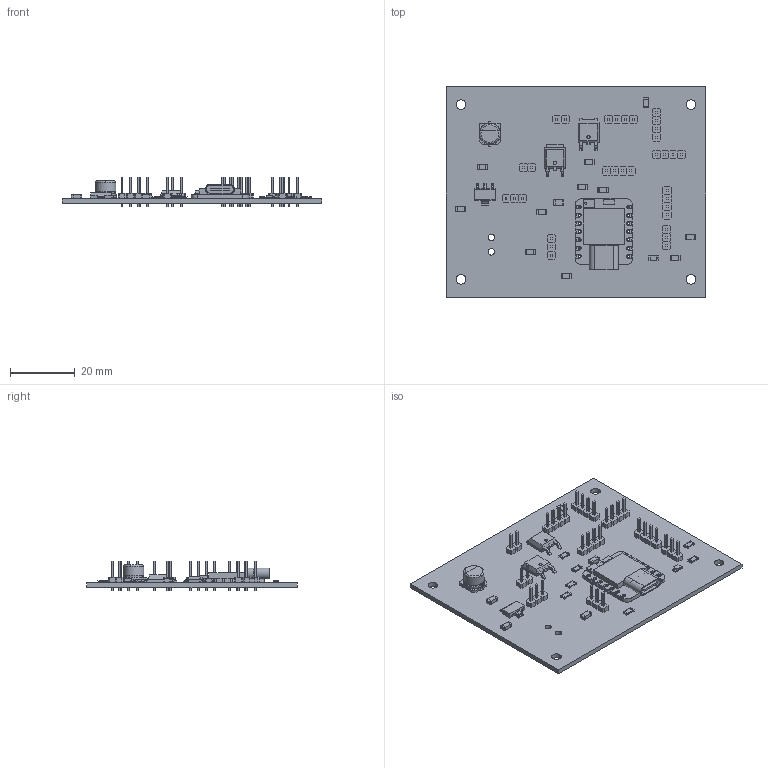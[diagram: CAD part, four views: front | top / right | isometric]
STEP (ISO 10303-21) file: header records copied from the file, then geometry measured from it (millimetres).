
FILE_DESCRIPTION(('KiCad electronic assembly'),'2;1');
FILE_NAME('final.step','2026-05-13T13:45:00',('Pcbnew'),('Kicad'), 'Open CASCADE STEP processor 7.9','KiCad to STEP converter','Unknown' );
FILE_SCHEMA(('AUTOMOTIVE_DESIGN { 1 0 10303 214 1 1 1 1 }'));
Length unit declared in the file: millimetre
Products named in the file (54): final 1; PinHeader-01x04_P2.54mm_Vertical_THT; final 1.1.1; final 1.1.2; final 1.1.3; final 1.1.4; Resistor-1206; Ceramic; Contacts; Contacts (Mirror #1); Overcoat; PinHeader-01x02_P2.54mm_Vertical_THT; final 1.4.1; final 1.4.2; Capacitor-1206; Body; Contact; ContactClone; TO-252-2; final 1.9.1; Seeed_XIAO-nRF52840_Sense; SoC_nRF_Sense; Mic_nRF_Sense; Antenna_nRF_Sense; XIAO_Generic; Board; USB; Contact Clones; Body007; Body008; Body009; Body010; Body011; Body012; Body013; Body014; Body015; Body016; Body017; Body018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
Assembly tree (71 placements, depth 5):
  final 1
    PinHeader-01x04_P2.54mm_Vertical_THT  x5
      final 1.1.1
      final 1.1.2
      final 1.1.3
      final 1.1.4
    Resistor-1206  x8
      Ceramic
      Contacts
      Contacts (Mirror #1)
      Overcoat
    PinHeader-01x02_P2.54mm_Vertical_THT  x2
      final 1.4.1
      final 1.4.2
    Capacitor-1206  x4
      Body
      Contact
      ContactClone
    TO-252-2  x2
      final 1.9.1
    Seeed_XIAO-nRF52840_Sense
      SoC_nRF_Sense
      Mic_nRF_Sense
      Antenna_nRF_Sense
      XIAO_Generic
        Board
        USB
        Contact
        Contact Clones
          Body007
          Body008
          Body009
          Body010
          Body011
          Body012
          Body013
          Body014
          Body015
          Body016
          Body017
          Body018
          Body019
    PinHeader-01x03_P2.54mm_Vertical_THT  x3
      final 1.14.1
      final 1.14.2
      final 1.14.3
    CP_Elec_6.3x5.4
    SOT-223
    LED-1206
      Base
      Emmiter
      Contact_1
      Contact_2
    final_PCB
Bounding box: 80 x 65 x 9 mm (x, y, z)
Volume: 9413.1 mm3; surface area: 15435.9 mm2
Topology: 113 solids, 113 shells, 1685 faces, 4138 edges, 2752 vertices
Faces by surface type: plane 1438, cylinder 232, bspline 10, torus 4, revolution 1
Full cylindrical faces by diameter (mm): 0.5 x1, 0.7 x14, 0.8 x28, 0.9 x14, 1 x35, 2 x2, 3 x4, 6.3 x2
Entity records: 28249 total; most frequent: CARTESIAN_POINT 4733, DIRECTION 4408, ORIENTED_EDGE 4319, EDGE_CURVE 2160, LINE 1657, VECTOR 1657, VERTEX_POINT 1434, AXIS2_PLACEMENT_3D 1375
